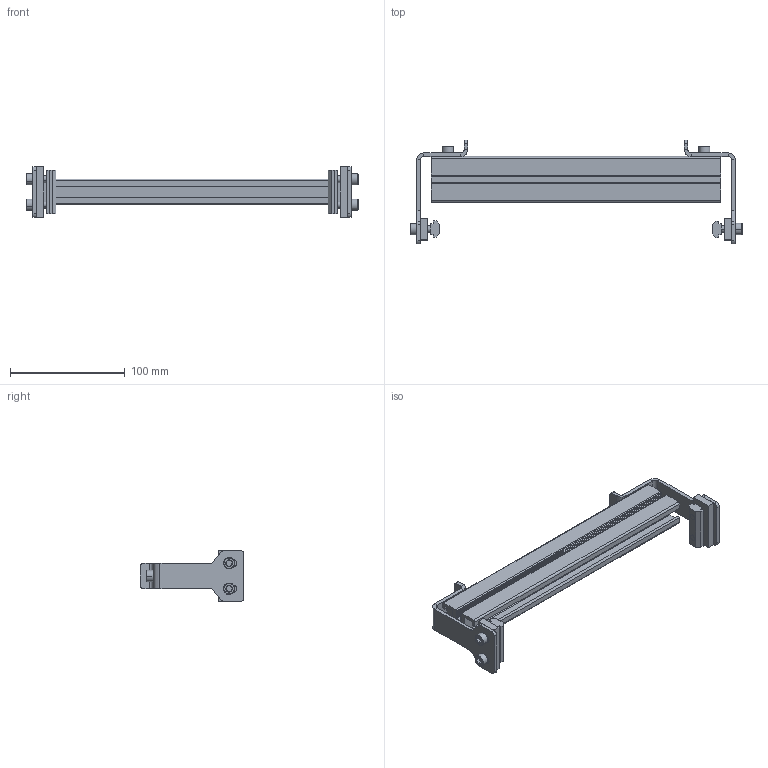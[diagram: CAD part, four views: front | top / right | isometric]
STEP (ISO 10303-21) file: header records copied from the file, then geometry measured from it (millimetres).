
FILE_DESCRIPTION (( 'STEP AP203' ), '1' );
FILE_NAME ('207137-10.STEP', '2023-03-01T21:15:49', ( '' ), ( '' ), 'SwSTEP 2.0', 'SolidWorks 2020', '' );
FILE_SCHEMA (( 'CONFIG_CONTROL_DESIGN' ));
Length unit declared in the file: inch
Products named in the file (8): 207137-10; 207135-WW_207135-10; 202444; 639971M_CAE; 9206XXM_920620M; 9206XXM_920614M; 207134; 200626M
Assembly tree (15 placements, depth 2):
  207137-10
    207134  x2
    207135-WW_207135-10
    202444  x2
    200626M  x2
    639971M_CAE  x2
    9206XXM_920614M  x2
    9206XXM_920620M  x4
Bounding box: 289.77 x 90.68 x 44.45 mm (x, y, z)
Volume: 147698.8 mm3; surface area: 93076.9 mm2
Topology: 15 solids, 15 shells, 432 faces, 1042 edges, 652 vertices
Faces by surface type: plane 258, cylinder 108, cone 66
Entity records: 8328 total; most frequent: CARTESIAN_POINT 1374, DIRECTION 1230, ORIENTED_EDGE 1212, EDGE_CURVE 606, VECTOR 462, LINE 462, VERTEX_POINT 388, AXIS2_PLACEMENT_3D 384
